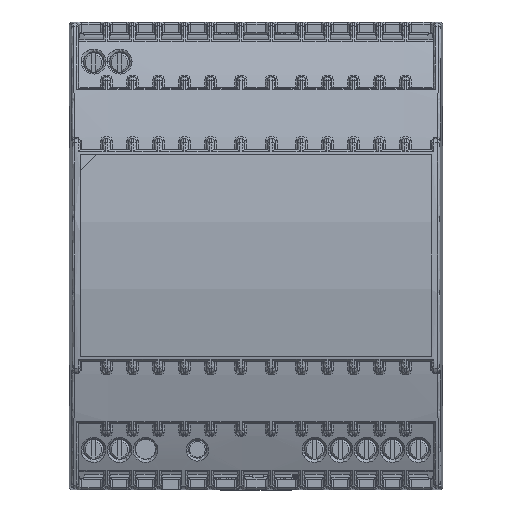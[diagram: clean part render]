
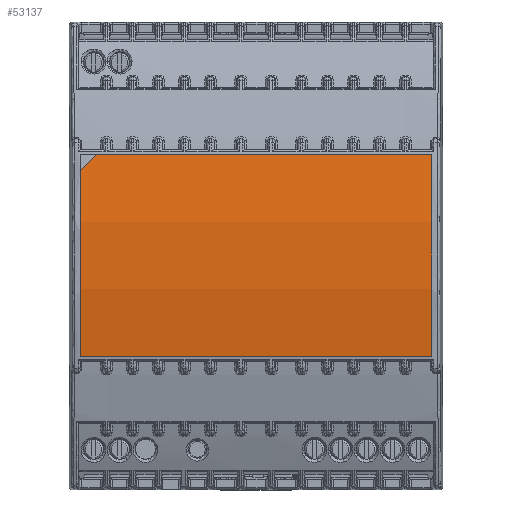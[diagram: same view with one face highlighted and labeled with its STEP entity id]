
A CAD part, top view. The second image highlights one B-rep face of the part: STEP entity #53137.
In plain terms, the highlighted cylindrical face has radius 117.95 mm (diameter 235.9 mm), a partial arc.
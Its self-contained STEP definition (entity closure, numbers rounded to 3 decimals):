
#3556=CYLINDRICAL_SURFACE('',#57198,117.95);
#6274=FACE_OUTER_BOUND('',#9139,.T.);
#9139=EDGE_LOOP('',(#42866,#42867,#42868,#42869));
#11416=CIRCLE('',#57195,117.95);
#11417=CIRCLE('',#57199,117.95);
#14386=LINE('',#88108,#18745);
#14387=LINE('',#88111,#18746);
#18745=VECTOR('',#66129,10.);
#18746=VECTOR('',#66132,10.);
#24184=VERTEX_POINT('',#88098);
#24185=VERTEX_POINT('',#88100);
#24187=VERTEX_POINT('',#88106);
#24188=VERTEX_POINT('',#88110);
#31132=EDGE_CURVE('',#24184,#24185,#11416,.T.);
#31136=EDGE_CURVE('',#24187,#24184,#14386,.T.);
#31137=EDGE_CURVE('',#24188,#24185,#14387,.T.);
#31140=EDGE_CURVE('',#24187,#24188,#11417,.T.);
#42866=ORIENTED_EDGE('',*,*,#31132,.F.);
#42867=ORIENTED_EDGE('',*,*,#31136,.F.);
#42868=ORIENTED_EDGE('',*,*,#31140,.T.);
#42869=ORIENTED_EDGE('',*,*,#31137,.T.);
#53137=ADVANCED_FACE('',(#6274),#3556,.T.);
#57195=AXIS2_PLACEMENT_3D('',#88101,#66122,#66123);
#57198=AXIS2_PLACEMENT_3D('',#88115,#66135,#66136);
#57199=AXIS2_PLACEMENT_3D('',#88116,#66137,#66138);
#66122=DIRECTION('center_axis',(-1.,0.,0.));
#66123=DIRECTION('ref_axis',(0.,-0.165,0.986));
#66129=DIRECTION('',(-1.,0.,0.));
#66132=DIRECTION('',(-1.,0.,0.));
#66135=DIRECTION('center_axis',(-1.,0.,0.));
#66136=DIRECTION('ref_axis',(0.,-0.165,0.986));
#66137=DIRECTION('center_axis',(-1.,0.,0.));
#66138=DIRECTION('ref_axis',(0.,-0.165,0.986));
#88098=CARTESIAN_POINT('',(-91.96,-35.854,81.5));
#88100=CARTESIAN_POINT('',(-91.96,3.081,81.5));
#88101=CARTESIAN_POINT('Origin',(-91.96,-16.387,-34.833));
#88106=CARTESIAN_POINT('',(-24.36,-35.854,81.5));
#88108=CARTESIAN_POINT('',(-24.36,-35.854,81.5));
#88110=CARTESIAN_POINT('',(-24.36,3.081,81.5));
#88111=CARTESIAN_POINT('',(-24.36,3.081,81.5));
#88115=CARTESIAN_POINT('Origin',(-24.36,-16.387,-34.833));
#88116=CARTESIAN_POINT('Origin',(-24.36,-16.387,-34.833));
